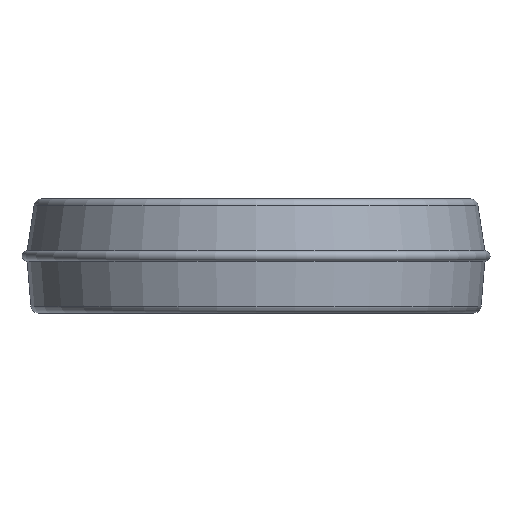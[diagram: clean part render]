
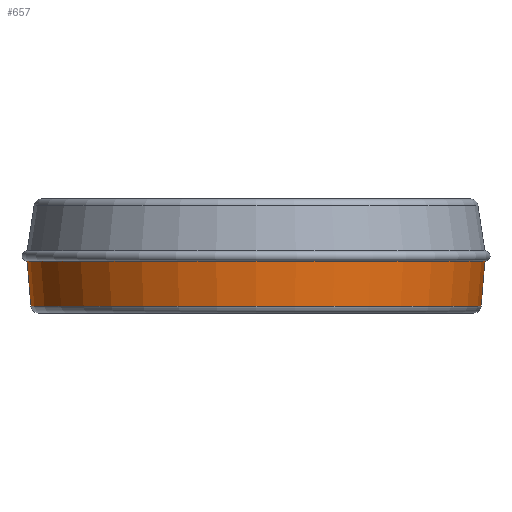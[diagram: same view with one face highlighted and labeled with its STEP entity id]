
A CAD part, front view. The second image highlights one B-rep face of the part: STEP entity #657.
In plain terms, the highlighted conical face has half-angle 4.811 degrees and reference radius 44.5 mm.
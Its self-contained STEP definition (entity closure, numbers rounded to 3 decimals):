
#5 = VECTOR ( 'NONE', #480, 1000. ) ;
#13 = CARTESIAN_POINT ( 'NONE',  ( 0., 0., -10.6 ) ) ;
#24 = CARTESIAN_POINT ( 'NONE',  ( 43.766, 0., -19.326 ) ) ;
#71 = ORIENTED_EDGE ( 'NONE', *, *, #687, .F. ) ;
#80 = EDGE_CURVE ( 'NONE', #643, #798, #668, .T. ) ;
#87 = CONICAL_SURFACE ( 'NONE', #777, 44.5, 0.084 ) ;
#122 = ORIENTED_EDGE ( 'NONE', *, *, #531, .F. ) ;
#130 = CARTESIAN_POINT ( 'NONE',  ( 44.5, 0., -10.6 ) ) ;
#135 = DIRECTION ( 'NONE',  ( 0., 0., 1. ) ) ;
#165 = EDGE_LOOP ( 'NONE', ( #71, #686, #541, #122 ) ) ;
#193 = CARTESIAN_POINT ( 'NONE',  ( 0., 0., -19.326 ) ) ;
#262 = VECTOR ( 'NONE', #521, 1000. ) ;
#279 = AXIS2_PLACEMENT_3D ( 'NONE', #835, #563, #367 ) ;
#333 = CARTESIAN_POINT ( 'NONE',  ( -43.766, 0., -19.326 ) ) ;
#354 = CARTESIAN_POINT ( 'NONE',  ( 44.5, 0., -10.6 ) ) ;
#367 = DIRECTION ( 'NONE',  ( 1., 0., 0. ) ) ;
#372 = AXIS2_PLACEMENT_3D ( 'NONE', #193, #827, #629 ) ;
#381 = VERTEX_POINT ( 'NONE', #818 ) ;
#400 = LINE ( 'NONE', #445, #262 ) ;
#418 = EDGE_CURVE ( 'NONE', #798, #721, #472, .T. ) ;
#445 = CARTESIAN_POINT ( 'NONE',  ( -44.5, 0., -10.6 ) ) ;
#472 = LINE ( 'NONE', #354, #5 ) ;
#480 = DIRECTION ( 'NONE',  ( 0.084, 0., 0.996 ) ) ;
#521 = DIRECTION ( 'NONE',  ( -0.084, 0., 0.996 ) ) ;
#531 = EDGE_CURVE ( 'NONE', #381, #721, #642, .T. ) ;
#541 = ORIENTED_EDGE ( 'NONE', *, *, #418, .T. ) ;
#563 = DIRECTION ( 'NONE',  ( 0., 0., 1. ) ) ;
#629 = DIRECTION ( 'NONE',  ( 1., 0., 0. ) ) ;
#642 = CIRCLE ( 'NONE', #279, 44.5 ) ;
#643 = VERTEX_POINT ( 'NONE', #333 ) ;
#644 = FACE_OUTER_BOUND ( 'NONE', #165, .T. ) ;
#657 = ADVANCED_FACE ( 'NONE', ( #644 ), #87, .T. ) ;
#668 = CIRCLE ( 'NONE', #372, 43.766 ) ;
#686 = ORIENTED_EDGE ( 'NONE', *, *, #80, .T. ) ;
#687 = EDGE_CURVE ( 'NONE', #643, #381, #400, .T. ) ;
#721 = VERTEX_POINT ( 'NONE', #130 ) ;
#777 = AXIS2_PLACEMENT_3D ( 'NONE', #13, #135, #786 ) ;
#786 = DIRECTION ( 'NONE',  ( 1., 0., 0. ) ) ;
#798 = VERTEX_POINT ( 'NONE', #24 ) ;
#818 = CARTESIAN_POINT ( 'NONE',  ( -44.5, 0., -10.6 ) ) ;
#827 = DIRECTION ( 'NONE',  ( 0., 0., 1. ) ) ;
#835 = CARTESIAN_POINT ( 'NONE',  ( 0., 0., -10.6 ) ) ;
